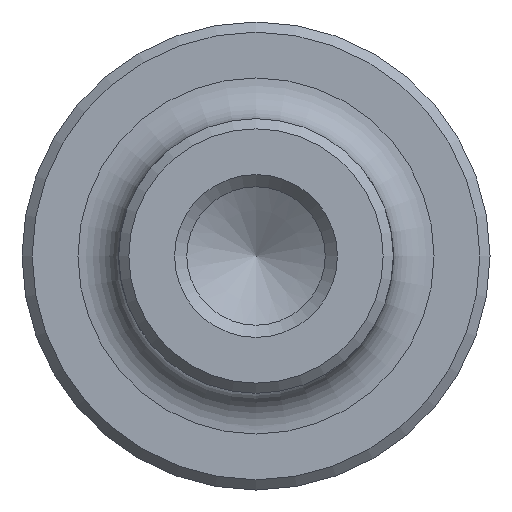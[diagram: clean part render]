
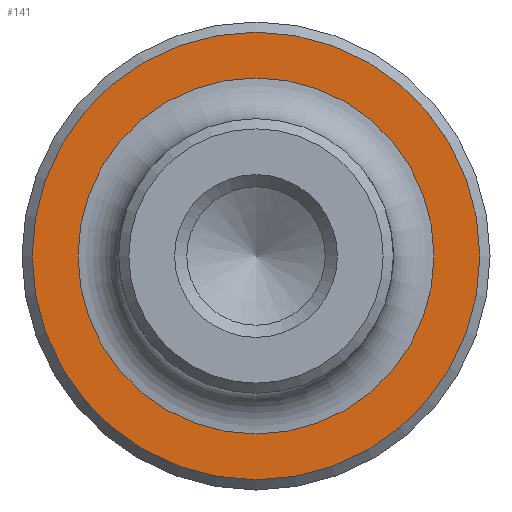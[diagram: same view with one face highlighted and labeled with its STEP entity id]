
A CAD part, front view. The second image highlights one B-rep face of the part: STEP entity #141.
In plain terms, the highlighted planar face has unit normal (0, -1, 0).
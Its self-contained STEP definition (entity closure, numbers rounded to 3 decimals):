
#130=PLANE('',#409);
#141=ADVANCED_FACE('',(#190,#191),#130,.T.);
#190=FACE_BOUND('',#226,.T.);
#191=FACE_BOUND('',#227,.T.);
#226=EDGE_LOOP('',(#274));
#227=EDGE_LOOP('',(#275));
#274=ORIENTED_EDGE('',*,*,#358,.T.);
#275=ORIENTED_EDGE('',*,*,#359,.T.);
#332=VERTEX_POINT('',#570);
#333=VERTEX_POINT('',#572);
#358=EDGE_CURVE('',#332,#332,#383,.T.);
#359=EDGE_CURVE('',#333,#333,#384,.T.);
#383=CIRCLE('',#407,8.75);
#384=CIRCLE('',#408,11.);
#407=AXIS2_PLACEMENT_3D('',#569,#468,#469);
#408=AXIS2_PLACEMENT_3D('',#571,#470,#471);
#409=AXIS2_PLACEMENT_3D('',#573,#472,#473);
#468=DIRECTION('',(0.,1.,0.));
#469=DIRECTION('',(0.,0.,-1.));
#470=DIRECTION('',(0.,-1.,0.));
#471=DIRECTION('',(0.,0.,-1.));
#472=DIRECTION('',(0.,-1.,0.));
#473=DIRECTION('',(0.,0.,-1.));
#569=CARTESIAN_POINT('',(0.,0.,0.));
#570=CARTESIAN_POINT('',(0.,0.,-8.75));
#571=CARTESIAN_POINT('',(0.,0.,0.));
#572=CARTESIAN_POINT('',(0.,0.,-11.));
#573=CARTESIAN_POINT('',(0.,0.,0.));
